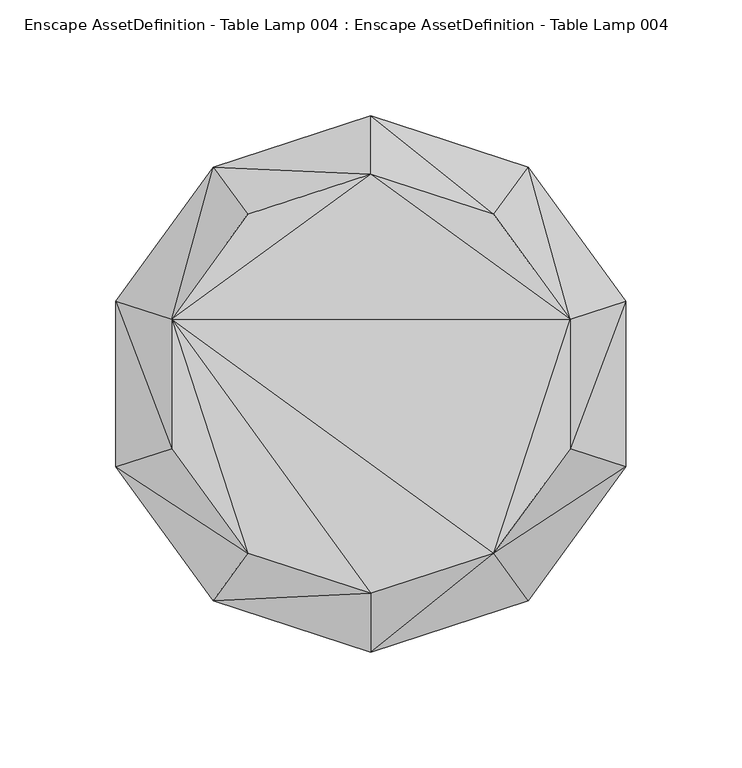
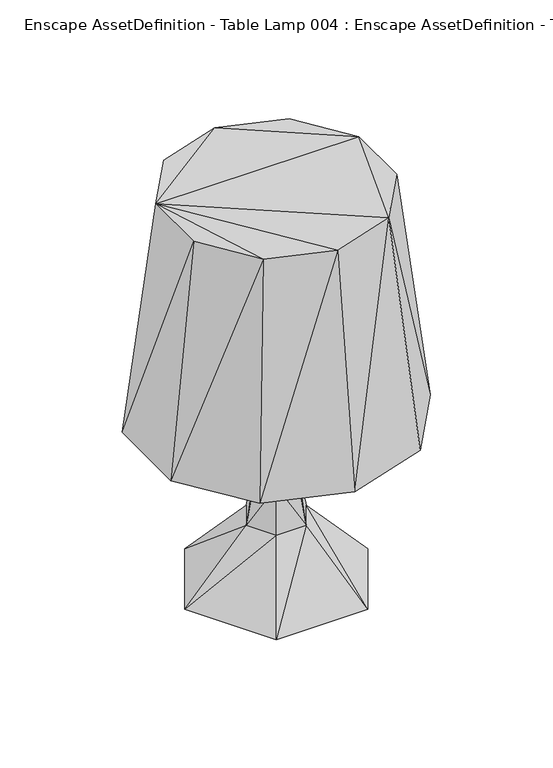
"""IFC4 building model written with IfcOpenShell, lengths in millimetres: geographic element geometry, Enscape AssetDefinition - Table Lamp 004 : Enscape AssetDefinition - Table Lamp 004."""

import ifcopenshell
import ifcopenshell.guid

model = None  # the IFC model being written
_history = None  # IfcOwnerHistory: only IFC2X3 demands one
_inside = {}  # id of a spatial element -> (the spatial element, [elements in it])
_under = {}  # id of a project, library or spatial element -> (it, [spatial elements below it])
_declared = {}  # id of a project -> (the project, [libraries it declares])
_typed = {}  # id of a type object -> (the type object, [elements of that type])
_made_of = {}  # id of a material, layer set ... -> (it, [elements and type objects made of it])


def new_model(schema):
    """Start an empty IFC model of exactly this schema.

    Asked for "IFC4X3", IfcOpenShell would pick the latest addendum, in which some entities
    have other attributes; the version numbers below select the first issue.
    IFC2X3 requires an IfcOwnerHistory on every rooted entity: one is made here for all.
    """
    global model, _history
    if schema == "IFC4X3":
        model = ifcopenshell.file(schema_version=(4, 3, 0, 0))
    else:
        model = ifcopenshell.file(schema=schema)
    _inside.clear()
    _under.clear()
    _declared.clear()
    _typed.clear()
    _made_of.clear()
    _history = None
    if model.schema == "IFC2X3":
        org = make("IfcOrganization", Name="unknown")
        user = make(
            "IfcPersonAndOrganization",
            ThePerson=make("IfcPerson", FamilyName="unknown"),
            TheOrganization=org,
        )
        app = make(
            "IfcApplication",
            ApplicationDeveloper=org,
            Version="unknown",
            ApplicationFullName="unknown",
            ApplicationIdentifier="unknown",
        )
        _history = make(
            "IfcOwnerHistory",
            OwningUser=user,
            OwningApplication=app,
            ChangeAction="ADDED",
            CreationDate=0,
        )
    return model


def make(cls, **values):
    """One entity of the class cls with the attributes given. An attribute that is None is left unset."""
    return model.create_entity(
        cls, **{name: value for name, value in values.items() if value is not None}
    )


def rooted(cls, **values):
    """An entity with a GlobalId (a new one), such as an element, a storey or a relation."""
    return make(cls, GlobalId=ifcopenshell.guid.new(), OwnerHistory=_history, **values)


def si_unit(unit_type, name, prefix=None):
    """IfcSIUnit, for example si_unit("LENGTHUNIT", "METRE", prefix="MILLI")."""
    return make("IfcSIUnit", UnitType=unit_type, Prefix=prefix, Name=name)


def assignment(units):
    """IfcUnitAssignment: the units of a project."""
    return None if units is None else make("IfcUnitAssignment", Units=units)


def point(xyz):
    """IfcCartesianPoint."""
    return None if xyz is None else make("IfcCartesianPoint", Coordinates=xyz)


def direction(xyz):
    """IfcDirection."""
    return None if xyz is None else make("IfcDirection", DirectionRatios=xyz)


def frame(location, z_axis=None, x_axis=None):
    """IfcAxis2Placement3D, a coordinate frame: its origin and axes. An axis left out is left unset."""
    return make(
        "IfcAxis2Placement3D",
        Location=point(location),
        Axis=direction(z_axis),
        RefDirection=direction(x_axis),
    )


def origin():
    """The frame at (0, 0, 0) with its axes left unset."""
    return frame((0.0, 0.0, 0.0))


def place(relative_to, where):
    """IfcLocalPlacement: puts the frame where relative to a parent placement (None: the world)."""
    return make(
        "IfcLocalPlacement", PlacementRelTo=relative_to, RelativePlacement=where
    )


def context(
    kind, dimensions, precision=None, world=None, true_north=None, identifier=None
):
    """IfcGeometricRepresentationContext, for example the 3D "Model" context."""
    return make(
        "IfcGeometricRepresentationContext",
        ContextIdentifier=identifier,
        ContextType=kind,
        CoordinateSpaceDimension=dimensions,
        Precision=precision,
        WorldCoordinateSystem=world,
        TrueNorth=true_north,
    )


def project(units=None, contexts=None):
    """IfcProject with its units and contexts."""
    return rooted(
        "IfcProject",
        Name="project",
        RepresentationContexts=contexts,
        UnitsInContext=assignment(units),
    )


def spatial(cls, under=None, at=None, **own):
    """A site, building, storey or space (cls), placed at a placement, below another one or the project."""
    s = rooted(cls, ObjectPlacement=at, **own)
    if under is not None:
        _under.setdefault(under.id(), (under, []))[1].append(s)
    return s


def faces_of(points, faces, orient=None, outer=None):
    """IfcFace entities. A face is a list of loops; a loop is a list of indices into points, from 0.

    orient and outer hold one flag for each loop. By default every Orientation is true, the
    first loop of a face is its IfcFaceOuterBound and the others are IfcFaceBound.
    """
    made = []
    for i, loops in enumerate(faces):
        bounds = []
        for j, loop in enumerate(loops):
            is_outer = j == 0 if outer is None else outer[i][j]
            bounds.append(
                make(
                    "IfcFaceOuterBound" if is_outer else "IfcFaceBound",
                    Bound=make("IfcPolyLoop", Polygon=[points[k] for k in loop]),
                    Orientation=True if orient is None else orient[i][j],
                )
            )
        made.append(make("IfcFace", Bounds=bounds))
    return made


def faceted_brep(points, faces, orient=None, outer=None, voids=None):
    """IfcFacetedBrep: a solid bounded by flat faces; with voids (closed shells), ...WithVoids."""
    shared = [point(p) for p in points]
    hull = make("IfcClosedShell", CfsFaces=faces_of(shared, faces, orient, outer))
    if voids is None:
        return make("IfcFacetedBrep", Outer=hull)
    return make(
        "IfcFacetedBrepWithVoids",
        Outer=hull,
        Voids=[
            make(cls, CfsFaces=faces_of(shared, fs, o, b)) for cls, fs, o, b in voids
        ],
    )


def shape(context_of_items, identifier, shape_type, items):
    """IfcShapeRepresentation: the items that make up one representation, for example the "Body"."""
    return make(
        "IfcShapeRepresentation",
        ContextOfItems=context_of_items,
        RepresentationIdentifier=identifier,
        RepresentationType=shape_type,
        Items=items,
    )


def source(mapping_origin, context_of_items, identifier, shape_type, items):
    """IfcRepresentationMap: a shape defined once, which mapped items show again and again."""
    return make(
        "IfcRepresentationMap",
        MappingOrigin=mapping_origin,
        MappedRepresentation=shape(context_of_items, identifier, shape_type, items),
    )


def transform(
    local_origin,
    x_axis=None,
    y_axis=None,
    z_axis=None,
    scale=None,
    scale2=None,
    scale3=None,
    uniform=True,
):
    """IfcCartesianTransformationOperator3D, or its non-uniform kind. x_axis, y_axis, z_axis: its Axis1, 2, 3."""
    if uniform:
        return make(
            "IfcCartesianTransformationOperator3D",
            Axis1=direction(x_axis),
            Axis2=direction(y_axis),
            LocalOrigin=point(local_origin),
            Scale=scale,
            Axis3=direction(z_axis),
        )
    return make(
        "IfcCartesianTransformationOperator3DnonUniform",
        Axis1=direction(x_axis),
        Axis2=direction(y_axis),
        LocalOrigin=point(local_origin),
        Scale=scale,
        Axis3=direction(z_axis),
        Scale2=scale2,
        Scale3=scale3,
    )


def mapped(mapping_source, mapping_target):
    """IfcMappedItem: shows the shape of a source again, moved by a transform."""
    return make(
        "IfcMappedItem", MappingSource=mapping_source, MappingTarget=mapping_target
    )


def made_of(thing, what):
    """Note that an element or type object is made of a material, layer set ...; save() writes the relation."""
    if what is not None:
        _made_of.setdefault(what.id(), (what, []))[1].append(thing)
    return thing


def element(
    cls,
    number,
    at=None,
    inside=None,
    cuts=None,
    type_object=None,
    material=None,
    context=None,
    identifier="Body",
    shape_type=None,
    held_by="IfcProductDefinitionShape",
    body=None,
    shapes=None,
    **own,
):
    """One element of the class cls, such as IfcWall. Its Tag is "e" and its number.

    at: its placement. inside: the storey or other place that contains it. cuts: it is an
    opening in that element (IfcRelVoidsElement). A single representation is given by context,
    identifier, shape_type and body (its items); several are given by shapes. held_by: the class
    of the entity that holds the representations. save() writes the other relations.
    """
    e = rooted(cls, Tag="e%d" % number, ObjectPlacement=at, **own)
    if body is not None:
        shapes = [shape(context, identifier, shape_type, body)]
    if shapes is not None:
        e.Representation = make(held_by, Representations=shapes)
    if inside is not None:
        _inside.setdefault(inside.id(), (inside, []))[1].append(e)
    if cuts is not None:
        rooted(
            "IfcRelVoidsElement", RelatingBuildingElement=cuts, RelatedOpeningElement=e
        )
    if type_object is not None:
        _typed.setdefault(type_object.id(), (type_object, []))[1].append(e)
    return made_of(e, material)


def aggregate(whole, parts):
    """IfcRelAggregates: a whole, such as a stair, and the parts it consists of."""
    return rooted("IfcRelAggregates", RelatingObject=whole, RelatedObjects=parts)


def save(model, path):
    """Write the relations noted so far, then the file.

    IfcRelAggregates (storeys below a building ...), IfcRelContainedInSpatialStructure (elements
    in a storey), IfcRelDefinesByType, IfcRelAssociatesMaterial and IfcRelDeclares: one each for
    every whole, place, type object, material and project.
    """
    for whole, parts in _under.values():
        aggregate(whole, parts)
    for where, things in _inside.values():
        rooted(
            "IfcRelContainedInSpatialStructure",
            RelatedElements=things,
            RelatingStructure=where,
        )
    for kind, things in _typed.values():
        rooted("IfcRelDefinesByType", RelatedObjects=things, RelatingType=kind)
    for what, things in _made_of.values():
        rooted("IfcRelAssociatesMaterial", RelatedObjects=things, RelatingMaterial=what)
    for by, libraries in _declared.values():
        rooted("IfcRelDeclares", RelatingContext=by, RelatedDefinitions=libraries)
    model.write(path)


def enscape_assetdefinition_table_lamp_004_enscape_723846a9(model_context):
    return source(origin(), model_context, "Body", "Brep", [
        faceted_brep([(12.7563432, 22.0942024, 56.9927294), (38.8591668, 67.3069537, 0.0), (-12.7563432, 22.0942024, 56.9927294), (-77.7183336, 0.0, 0.0), (-38.8591668, 67.3069537, 0.0), (77.7183336, 0.0, 0.0), (-25.5126864, 0.0, 56.9927294), (-9.1771304, 15.8965506, 95.7499459), (9.1771304, 15.8965506, 95.7499459), (25.5126864, 0.0, 56.9927294), (38.8591668, -67.3069537, 0.0), (12.7563432, -22.0942024, 56.9927294), (18.3554606, 0.0, 95.7499459), (31.3073183, 0.0, 134.7506483), (15.654259, 27.1139771, 134.7506483), (9.1771304, -15.8965506, 95.7499459), (86.9950209, 0.0, 166.9155802), (15.654259, -27.1139771, 134.7506483), (-15.654259, 27.1139771, 134.7506483), (-43.4975105, 75.3397951, 166.9155802), (43.4975105, 75.3397951, 166.9155802), (43.4975105, -75.3397951, 166.9155802), (-43.4975105, -75.3397951, 166.9155802), (-15.654259, -27.1139771, 134.7506483), (-86.9950209, 0.0, 166.9155802), (-31.3073183, 0.0, 134.7506483), (-18.3554606, 0.0, 95.7499459), (-9.1771304, -15.8965506, 95.7499459), (-12.7563432, -22.0942024, 56.9927294), (-38.8591668, -67.3069537, 0.0)], [[[0, 1, 2]], [[1, 3, 4]], [[2, 1, 4]], [[0, 5, 1]], [[3, 1, 5]], [[2, 4, 6]], [[2, 6, 7]], [[7, 0, 2]], [[8, 0, 7]], [[9, 5, 0]], [[8, 9, 0]], [[9, 10, 5]], [[3, 5, 10]], [[11, 10, 9]], [[12, 9, 8]], [[12, 11, 9]], [[12, 8, 13]], [[8, 7, 14]], [[13, 8, 14]], [[15, 11, 12]], [[13, 15, 12]], [[13, 16, 17]], [[17, 15, 13]], [[13, 14, 16]], [[18, 19, 14]], [[14, 19, 20]], [[14, 7, 18]], [[16, 14, 20]], [[17, 16, 21]], [[16, 22, 21]], [[22, 16, 20]], [[17, 21, 23]], [[23, 15, 17]], [[23, 21, 22]], [[22, 19, 24]], [[24, 23, 22]], [[22, 20, 19]], [[18, 25, 19]], [[19, 25, 24]], [[7, 26, 18]], [[18, 26, 25]], [[7, 6, 26]], [[26, 6, 27]], [[26, 27, 25]], [[25, 23, 24]], [[25, 27, 23]], [[27, 15, 23]], [[28, 11, 27]], [[27, 6, 28]], [[27, 11, 15]], [[6, 3, 28]], [[6, 4, 3]], [[28, 29, 11]], [[28, 3, 29]], [[11, 29, 10]], [[3, 10, 29]]]),
        faceted_brep([(-86.0090579, 27.946407, 350.0), (86.0090579, 27.946407, 349.9963896), (0.0, 90.4351005, 349.9987846), (110.0572012, 35.7597421, 148.5481344), (68.0194392, 93.6208853, 148.5481344), (53.1568285, -73.1639595, 349.9963896), (86.0090579, -27.946407, 349.9963896), (53.1568285, 73.1639595, 349.997605), (0.0, 115.7210887, 148.5481344), (-68.0194392, 93.6208853, 148.5481344), (-110.0572012, 35.7597421, 148.5481344), (-53.1568285, 73.1639595, 350.0), (-110.0572012, -35.7597421, 148.5481344), (-86.0090579, -27.946407, 349.9987846), (68.0194392, -93.6208853, 148.5481344), (-68.0194392, -93.6208853, 148.5481344), (-53.1568285, -73.1639595, 349.997605), (0.0, -90.4351005, 349.9963896), (0.0, -115.7210887, 148.5481344), (110.0572012, -35.7597421, 148.5481344)], [[[0, 1, 2]], [[3, 4, 1]], [[1, 5, 6]], [[2, 1, 7]], [[0, 5, 1]], [[6, 3, 1]], [[1, 4, 7]], [[4, 8, 7]], [[3, 8, 4]], [[7, 8, 2]], [[8, 9, 2]], [[8, 10, 9]], [[3, 10, 8]], [[11, 9, 0]], [[2, 9, 11]], [[0, 9, 10]], [[12, 13, 10]], [[14, 10, 3]], [[10, 13, 0]], [[10, 15, 12]], [[10, 14, 15]], [[13, 12, 16]], [[16, 0, 13]], [[16, 12, 15]], [[16, 15, 17]], [[17, 15, 18]], [[15, 14, 18]], [[14, 19, 5]], [[5, 18, 14]], [[14, 3, 19]], [[17, 18, 5]], [[0, 16, 17]], [[0, 17, 5]], [[0, 2, 11]], [[5, 19, 6]], [[19, 3, 6]]]),
    ])


if __name__ == "__main__":
    model = new_model("IFC4")
    model_context = context("Model", 3, world=origin())
    ifc_project = project(units=[si_unit("LENGTHUNIT", "METRE", prefix="MILLI")], contexts=[model_context])
    site = spatial("IfcSite", under=ifc_project)
    building = spatial("IfcBuilding", under=site)
    placement = place(None, origin())
    enscape_assetdefinition_table_lamp_004_enscape_shape = enscape_assetdefinition_table_lamp_004_enscape_723846a9(model_context)
    element("IfcGeographicElement", 1, ObjectType="Enscape AssetDefinition - Table Lamp 004 : Enscape AssetDefinition - Table Lamp 004", at=placement, inside=building, context=model_context, shape_type="MappedRepresentation", body=[
        mapped(enscape_assetdefinition_table_lamp_004_enscape_shape, transform((0.0, 0.0, 0.0), x_axis=(1.0, 0.0, 0.0), y_axis=(0.0, 1.0, 0.0), z_axis=(0.0, 0.0, 1.0))),
    ])
    save(model, "model.ifc")
